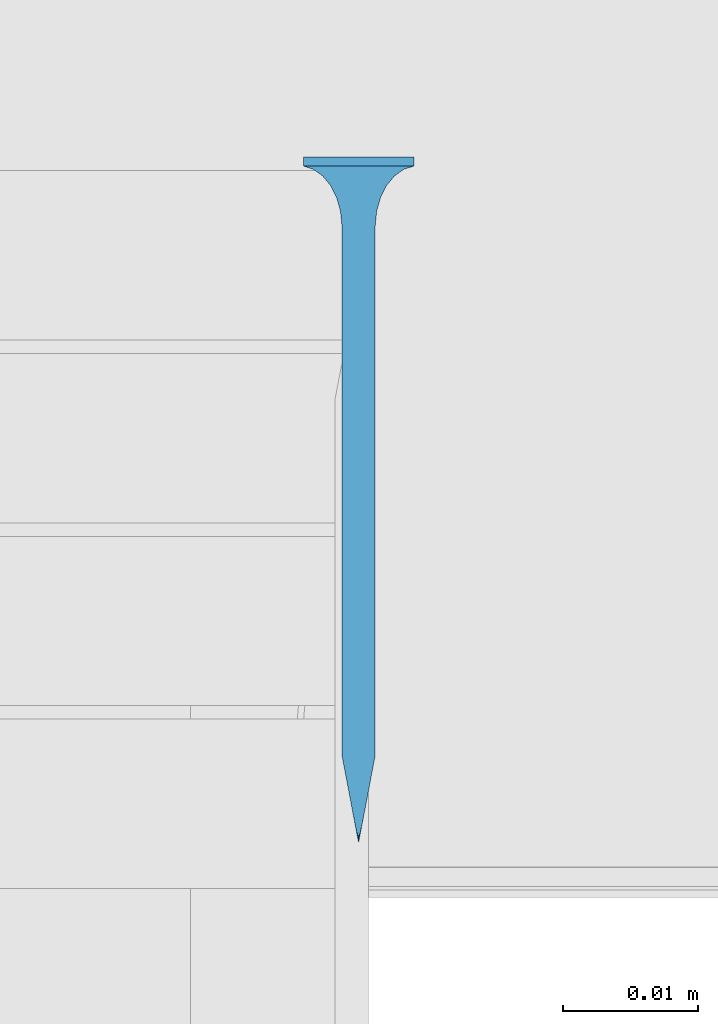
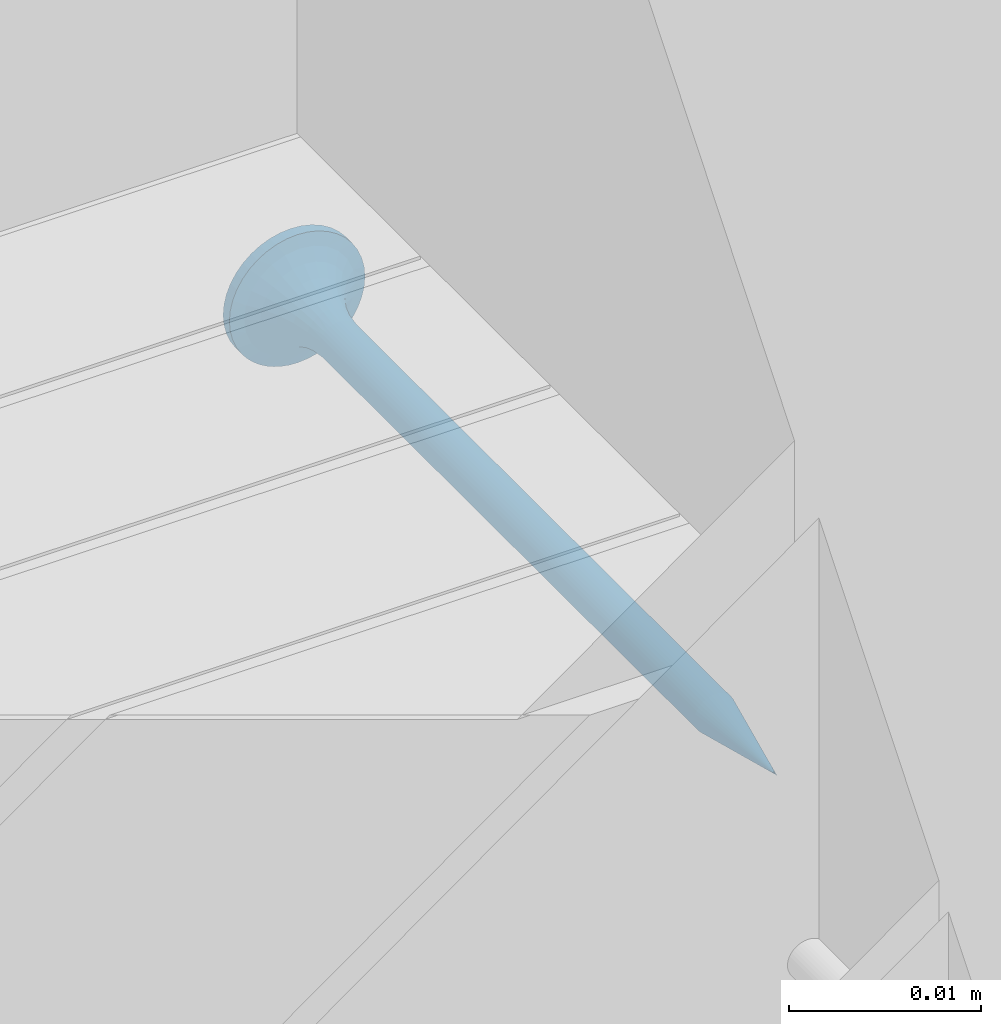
# One storey, part 29 of 32: 1 wall.
"""IFC2X3 building model written with IfcOpenShell, lengths in millimetres."""

from ifc_helpers import new_model, entity, si_unit, converted_unit, direction, frame, origin, origin_with_axes, place, context, project, spatial, faceted_brep, element, save


model = new_model("IFC2X3")

# Units and contexts
model_context = context("Model", 3, precision=1e-05, world=origin(), true_north=direction((0.0, 1.0, 0.0)))
ifc_project = project(units=[si_unit("LENGTHUNIT", "METRE", prefix="MILLI"), si_unit("AREAUNIT", "SQUARE_METRE"), si_unit("VOLUMEUNIT", "CUBIC_METRE"), converted_unit("PLANEANGLEUNIT", "DEGREE", entity("IfcPlaneAngleMeasure", 0.01745), si_unit("PLANEANGLEUNIT", "RADIAN"), dimensions=[0, 0, 0, 0, 0, 0, 0]), si_unit("SOLIDANGLEUNIT", "STERADIAN"), si_unit("MASSUNIT", "GRAM"), si_unit("TIMEUNIT", "SECOND"), si_unit("THERMODYNAMICTEMPERATUREUNIT", "DEGREE_CELSIUS"), si_unit("LUMINOUSINTENSITYUNIT", "LUMEN")], contexts=[model_context])

# Site, building, storey
site_placement = place(None, origin_with_axes())
site = spatial("IfcSite", under=ifc_project, at=site_placement, Name="Default Site", CompositionType="ELEMENT")
building_placement = place(site_placement, origin_with_axes())
building = spatial("IfcBuilding", under=site, at=building_placement, Name="Default Building", CompositionType="ELEMENT")
storey_placement = place(building_placement, origin_with_axes())
storey = spatial("IfcBuildingStorey", under=building, at=storey_placement, Name="Default Building Storey", CompositionType="ELEMENT", Elevation=0.0)

# Wall
wall_placement = place(storey_placement, frame((3324.58325027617, -2831.468421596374, -173.902931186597), z_axis=(0.0, 0.0, 1.0), x_axis=(1.0, 4.718447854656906e-16, 0.0)))
element("IfcWall", 1, at=wall_placement, inside=storey, Name="Wkręt RIGIPS TN 45", context=model_context, shape_type="Brep", body=[
    faceted_brep([(-141.5377463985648, 4832.59805152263, 555.8000000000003), (-141.5377463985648, 4833.259713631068, 555.8000000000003), (-141.4875329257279, 4833.259713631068, 555.1619773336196), (-141.4875329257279, 4832.59805152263, 555.1619773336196), (-141.3381289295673, 4833.259713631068, 554.5396649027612), (-141.3381289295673, 4832.59805152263, 554.5396649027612), (-141.0932132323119, 4833.259713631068, 553.9483861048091), (-141.0932132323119, 4832.59805152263, 553.9483861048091), (-140.7588164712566, 4833.259713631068, 553.4027001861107), (-140.7588164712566, 4832.59805152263, 553.4027001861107), (-140.3431726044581, 4833.259713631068, 552.9160437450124), (-140.4541727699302, 4832.59805152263, 553.0314907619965), (-140.1080097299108, 4832.59805152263, 552.6986614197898), (-139.8565161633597, 4833.259713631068, 552.5003998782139), (-139.7251262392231, 4832.59805152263, 552.4088262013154), (-139.3108302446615, 4833.259713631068, 552.1660031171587), (-139.3108302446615, 4832.59805152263, 552.1660031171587), (-138.870865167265, 4832.59805152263, 551.9735584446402), (-138.7195514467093, 4833.259713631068, 551.9210874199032), (-138.4113302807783, 4832.59805152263, 551.8341600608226), (-137.9385961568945, 4832.59805152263, 551.7497404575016), (-138.0972390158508, 4833.259713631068, 551.7716834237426), (-137.4592163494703, 4833.259713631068, 551.7214699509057), (-137.4592163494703, 4832.59805152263, 551.7214699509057), (-136.8211936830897, 4833.259713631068, 551.7716834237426), (-136.8211936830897, 4832.59805152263, 551.7716834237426), (-136.1988812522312, 4833.259713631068, 551.9210874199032), (-136.1988812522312, 4832.59805152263, 551.9210874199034), (-135.6076024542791, 4833.259713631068, 552.1660031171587), (-135.6076024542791, 4832.59805152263, 552.1660031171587), (-135.0619165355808, 4833.259713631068, 552.5003998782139), (-135.0619165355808, 4832.59805152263, 552.5003998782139), (-134.5752600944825, 4833.259713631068, 552.9160437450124), (-134.5752600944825, 4832.59805152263, 552.9160437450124), (-134.159616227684, 4833.259713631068, 553.4027001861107), (-134.159616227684, 4832.59805152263, 553.4027001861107), (-133.8252194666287, 4833.259713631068, 553.9483861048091), (-133.8252194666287, 4832.59805152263, 553.9483861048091), (-133.5803037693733, 4833.259713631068, 554.5396649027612), (-133.5803037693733, 4832.59805152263, 554.5396649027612), (-133.4308997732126, 4833.259713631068, 556.4380226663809), (-133.4308997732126, 4832.59805152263, 556.4380226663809), (-133.3806863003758, 4832.59805152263, 555.8000000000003), (-133.3806863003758, 4833.259713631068, 555.8000000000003), (-133.4308997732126, 4832.59805152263, 555.1619773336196), (-133.4308997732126, 4833.259713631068, 555.1619773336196), (-133.5803037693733, 4833.259713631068, 557.0603350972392), (-133.5803037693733, 4832.59805152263, 557.0603350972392), (-133.8252194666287, 4833.259713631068, 557.6516138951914), (-133.8252194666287, 4832.59805152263, 557.6516138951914), (-134.159616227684, 4833.259713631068, 558.1972998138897), (-134.159616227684, 4832.59805152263, 558.1972998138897), (-134.5752600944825, 4833.259713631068, 558.683956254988), (-134.5752600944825, 4832.59805152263, 558.683956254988), (-135.0619165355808, 4833.259713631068, 559.0996001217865), (-135.0619165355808, 4832.59805152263, 559.0996001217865), (-135.6076024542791, 4833.259713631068, 559.4339968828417), (-135.6076024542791, 4832.59805152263, 559.4339968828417), (-136.1988812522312, 4833.259713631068, 559.6789125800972), (-136.1988812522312, 4832.59805152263, 559.6789125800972), (-136.8211936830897, 4833.259713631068, 559.8283165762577), (-136.8211936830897, 4832.59805152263, 559.8283165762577), (-137.4592163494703, 4833.259713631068, 559.8785300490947), (-137.4592163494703, 4832.59805152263, 559.8785300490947), (-138.0972390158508, 4833.259713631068, 559.8283165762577), (-138.0972390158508, 4832.59805152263, 559.8283165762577), (-138.7195514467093, 4833.259713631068, 559.6789125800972), (-138.7195514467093, 4832.59805152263, 559.6789125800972), (-139.3108302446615, 4833.259713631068, 559.4339968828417), (-139.3108302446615, 4832.59805152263, 559.4339968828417), (-139.8565161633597, 4833.259713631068, 559.0996001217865), (-139.8565161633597, 4832.59805152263, 559.0996001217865), (-140.3431726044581, 4833.259713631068, 558.683956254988), (-140.3431726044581, 4832.59805152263, 558.683956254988), (-140.7588164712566, 4833.259713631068, 558.1972998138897), (-140.7588164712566, 4832.59805152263, 558.1972998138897), (-141.0932132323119, 4833.259713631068, 557.6516138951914), (-141.0932132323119, 4832.59805152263, 557.6516138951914), (-141.3381289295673, 4833.259713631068, 557.0603350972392), (-141.3381289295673, 4832.59805152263, 557.0603350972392), (-141.4875329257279, 4833.259713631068, 556.4380226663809), (-141.4875329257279, 4832.59805152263, 556.4380226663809), (-137.8060615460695, 4829.281368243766, 554.5055560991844), (-137.4592163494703, 4828.206294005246, 554.5693795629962), (-137.6517277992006, 4828.206294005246, 554.5845305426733), (-137.4592163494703, 4829.281368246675, 554.4598930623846), (-137.8394989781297, 4828.206294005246, 554.6296104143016), (-138.1292698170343, 4829.281368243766, 554.639433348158), (-138.0179063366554, 4828.206294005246, 554.7035091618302), (-138.182556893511, 4828.206294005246, 554.804407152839), (-138.4068150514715, 4829.281368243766, 554.8524012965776), (-138.3293964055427, 4828.206294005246, 554.929819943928), (-138.6197830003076, 4829.281368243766, 555.1299465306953), (-138.4548091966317, 4828.206294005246, 555.0766594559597), (-138.5557071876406, 4828.206294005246, 555.2413100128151), (-138.7536602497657, 4829.281368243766, 555.4531548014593), (-138.629605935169, 4828.206294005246, 555.4197173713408), (-138.6746858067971, 4828.206294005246, 555.60748855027), (-138.7993232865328, 4829.281368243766, 555.7999999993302), (-138.6898367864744, 4828.206294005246, 555.8000000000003), (-138.7536602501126, 4829.281368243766, 556.1468451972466), (-138.6746858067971, 4828.206294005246, 555.9925114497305), (-138.629605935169, 4828.206294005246, 556.1802826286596), (-138.6197830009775, 4829.281368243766, 556.4700534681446), (-138.5557071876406, 4828.206294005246, 556.3586899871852), (-138.4548091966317, 4828.206294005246, 556.5233405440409), (-138.4068150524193, 4829.281368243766, 556.7475987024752), (-138.3293964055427, 4828.206294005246, 556.6701800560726), (-138.1292698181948, 4829.281368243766, 556.9605666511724), (-138.182556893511, 4828.206294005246, 556.7955928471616), (-138.0179063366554, 4828.206294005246, 556.8964908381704), (-137.8060615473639, 4829.281368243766, 557.0944439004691), (-137.8394989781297, 4828.206294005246, 556.9703895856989), (-137.6517277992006, 4828.206294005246, 557.0154694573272), (-137.4592163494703, 4829.281368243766, 557.1401069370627), (-137.4592163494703, 4828.206294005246, 557.0306204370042), (-137.1123711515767, 4829.281368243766, 557.0944439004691), (-137.2667048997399, 4828.206294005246, 557.0154694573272), (-137.0789337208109, 4828.206294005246, 556.9703895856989), (-136.7891628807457, 4829.281368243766, 556.9605666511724), (-136.9005263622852, 4828.206294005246, 556.8964908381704), (-136.7358758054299, 4828.206294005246, 556.7955928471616), (-136.5116176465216, 4829.281368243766, 556.7475987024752), (-136.5890362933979, 4828.206294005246, 556.6701800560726), (-136.2986496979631, 4829.281368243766, 556.4700534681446), (-136.4636235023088, 4828.206294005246, 556.5233405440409), (-136.3627255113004, 4828.206294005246, 556.3586899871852), (-136.1647724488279, 4829.281368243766, 556.1468451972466), (-136.2888267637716, 4828.206294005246, 556.1802826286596), (-136.2437468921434, 4828.206294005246, 555.9925114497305), (-136.1191094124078, 4829.281368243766, 555.7999999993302), (-136.2285959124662, 4828.206294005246, 555.8000000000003), (-136.1647724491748, 4829.281368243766, 555.4531548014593), (-136.2437468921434, 4828.206294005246, 555.60748855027), (-136.2888267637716, 4828.206294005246, 555.4197173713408), (-136.298649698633, 4829.281368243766, 555.1299465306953), (-136.3627255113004, 4828.206294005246, 555.2413100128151), (-136.4636235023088, 4828.206294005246, 555.0766594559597), (-136.5116176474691, 4829.281368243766, 554.8524012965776), (-136.5890362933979, 4828.206294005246, 554.929819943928), (-136.7891628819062, 4829.281368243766, 554.639433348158), (-136.7358758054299, 4828.206294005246, 554.804407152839), (-136.9005263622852, 4828.206294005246, 554.7035091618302), (-137.112371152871, 4829.281368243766, 554.5055560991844), (-137.0789337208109, 4828.206294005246, 554.6296104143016), (-137.2667048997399, 4828.206294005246, 554.5845305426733), (-137.4592163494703, 4830.288222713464, 554.1737111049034), (-137.8801308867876, 4830.288222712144, 554.229125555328), (-138.2723607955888, 4830.288222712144, 554.3915925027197), (-138.6091762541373, 4830.288222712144, 554.6500400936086), (-138.8676238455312, 4830.288222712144, 554.9868555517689), (-139.0300907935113, 4830.288222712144, 555.3790854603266), (-139.085505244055, 4830.288222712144, 555.7999999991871), (-139.0300907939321, 4830.288222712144, 556.2209145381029), (-138.8676238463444, 4830.288222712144, 556.6131444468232), (-138.6091762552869, 4830.288222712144, 556.9499599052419), (-138.2723607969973, 4830.288222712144, 557.2084074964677), (-137.8801308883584, 4830.288222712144, 557.3708744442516), (-137.4592163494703, 4830.288222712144, 557.426288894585), (-137.0383018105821, 4830.288222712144, 557.3708744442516), (-136.6460719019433, 4830.288222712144, 557.2084074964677), (-136.3092564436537, 4830.288222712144, 556.9499599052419), (-136.0508088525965, 4830.288222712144, 556.6131444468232), (-135.8883419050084, 4830.288222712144, 556.2209145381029), (-135.8329274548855, 4830.288222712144, 555.7999999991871), (-135.8883419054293, 4830.288222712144, 555.3790854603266), (-136.0508088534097, 4830.288222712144, 554.9868555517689), (-136.3092564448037, 4830.288222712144, 554.6500400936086), (-136.6460719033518, 4830.288222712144, 554.3915925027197), (-137.038301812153, 4830.288222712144, 554.229125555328), (-137.4592163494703, 4831.168773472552, 553.7273431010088), (-137.9956594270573, 4831.168773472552, 553.7979671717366), (-138.4955447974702, 4831.168773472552, 554.005026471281), (-138.9248060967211, 4831.168773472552, 554.3344102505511), (-139.2541898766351, 4831.168773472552, 554.7636715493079), (-139.4612491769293, 4831.168773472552, 555.2635569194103), (-139.5318732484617, 4831.168773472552, 555.7999999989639), (-139.4612491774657, 4831.168773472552, 556.3364430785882), (-139.2541898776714, 4831.168773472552, 556.8363284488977), (-138.9248060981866, 4831.168773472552, 557.2655897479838), (-138.4955447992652, 4831.168773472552, 557.594973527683), (-137.9956594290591, 4831.168773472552, 557.8020328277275), (-137.4592163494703, 4831.168773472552, 557.8726568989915), (-136.9227732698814, 4831.168773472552, 557.8020328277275), (-136.4228878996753, 4831.168773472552, 557.594973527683), (-135.993626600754, 4831.168773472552, 557.2655897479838), (-135.6642428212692, 4831.168773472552, 556.8363284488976), (-135.4571835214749, 4831.168773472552, 556.3364430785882), (-135.3865594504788, 4831.168773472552, 555.7999999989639), (-135.4571835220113, 4831.168773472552, 555.2635569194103), (-135.6642428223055, 4831.168773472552, 554.7636715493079), (-135.9936266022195, 4831.168773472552, 554.3344102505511), (-136.4228879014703, 4831.168773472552, 554.005026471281), (-136.9227732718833, 4831.168773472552, 553.7979671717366), (-137.4592163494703, 4831.872222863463, 553.1465393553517), (-138.1459824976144, 4831.872222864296, 553.2369538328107), (-138.7859466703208, 4831.872222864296, 553.5020356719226), (-139.3354963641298, 4831.872222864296, 553.9237199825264), (-139.7571806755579, 4831.872222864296, 554.4732696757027), (-140.0222625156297, 4831.872222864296, 555.1132338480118), (-140.1126769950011, 4831.872222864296, 555.7999999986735), (-140.0222625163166, 4831.872222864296, 556.4867661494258), (-139.7571806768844, 4831.872222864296, 557.1267303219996), (-139.335496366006, 4831.872222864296, 557.6762800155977), (-138.7859466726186, 4831.872222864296, 558.0979643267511), (-138.1459825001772, 4831.872222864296, 558.3630461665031), (-137.4592163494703, 4831.872222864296, 558.4534606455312), (-136.7724501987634, 4831.872222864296, 558.3630461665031), (-136.1324860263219, 4831.872222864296, 558.0979643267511), (-135.5829363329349, 4831.872222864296, 557.6762800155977), (-135.1612520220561, 4831.872222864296, 557.1267303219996), (-134.8961701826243, 4831.872222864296, 556.4867661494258), (-134.8057557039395, 4831.872222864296, 555.7999999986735), (-134.8961701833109, 4831.872222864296, 555.1132338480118), (-135.1612520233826, 4831.872222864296, 554.4732696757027), (-135.5829363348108, 4831.872222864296, 553.9237199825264), (-136.1324860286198, 4831.872222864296, 553.5020356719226), (-136.7724502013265, 4831.872222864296, 553.2369538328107), (-137.4592163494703, 4832.357989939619, 552.4648055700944), (-138.3224281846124, 4832.357989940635, 552.578449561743), (-139.1268135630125, 4832.357989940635, 552.9116368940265), (-139.8175549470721, 4832.357989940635, 553.4416613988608), (-140.3475794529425, 4832.357989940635, 554.1324027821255), (-140.6807667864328, 4832.357989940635, 554.9367881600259), (-140.7944107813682, 4832.357989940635, 555.7999999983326), (-140.6807667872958, 4832.357989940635, 556.6632118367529), (-140.3475794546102, 4832.357989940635, 557.4675972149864), (-139.8175549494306, 4832.357989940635, 558.1583385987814), (-139.1268135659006, 4832.357989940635, 558.6883631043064), (-138.322428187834, 4832.357989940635, 559.0215504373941), (-137.4592163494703, 4832.357989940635, 559.1351944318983), (-136.5960045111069, 4832.357989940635, 559.0215504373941), (-135.79161913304, 4832.357989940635, 558.6883631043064), (-135.10087774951, 4832.357989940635, 558.1583385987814), (-134.5708532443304, 4832.357989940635, 557.4675972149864), (-134.2376659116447, 4832.357989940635, 556.6632118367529), (-134.1240219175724, 4832.357989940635, 555.7999999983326), (-134.2376659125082, 4832.357989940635, 554.9367881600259), (-134.570853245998, 4832.357989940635, 554.1324027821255), (-135.1008777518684, 4832.357989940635, 553.4416613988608), (-135.7916191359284, 4832.357989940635, 552.9116368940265), (-136.5960045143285, 4832.357989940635, 552.578449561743), (-138.6898367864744, 4789.093757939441, 555.8000000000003), (-138.6746858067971, 4789.093757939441, 555.60748855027), (-138.629605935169, 4789.093757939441, 555.4197173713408), (-138.5557071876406, 4789.093757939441, 555.2413100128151), (-138.4548091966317, 4789.093757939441, 555.0766594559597), (-138.3293964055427, 4789.093757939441, 554.929819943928), (-138.182556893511, 4789.093757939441, 554.804407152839), (-138.0179063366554, 4789.093757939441, 554.7035091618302), (-137.8394989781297, 4789.093757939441, 554.6296104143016), (-137.6517277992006, 4789.093757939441, 554.5845305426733), (-137.4592163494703, 4789.093757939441, 554.5693795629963), (-137.2667048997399, 4789.093757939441, 554.5845305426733), (-137.0789337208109, 4789.093757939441, 554.6296104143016), (-136.9005263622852, 4789.093757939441, 554.7035091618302), (-136.7358758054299, 4789.093757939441, 554.804407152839), (-136.5890362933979, 4789.093757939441, 554.929819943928), (-136.4636235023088, 4789.093757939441, 555.0766594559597), (-136.3627255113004, 4789.093757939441, 555.2413100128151), (-136.2888267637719, 4789.093757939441, 555.4197173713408), (-136.2437468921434, 4789.093757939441, 555.9925114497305), (-136.2285959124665, 4789.093757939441, 555.8000000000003), (-136.2437468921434, 4789.093757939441, 555.60748855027), (-136.2888267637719, 4789.093757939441, 556.1802826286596), (-136.3627255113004, 4789.093757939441, 556.3586899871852), (-136.4636235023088, 4789.093757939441, 556.5233405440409), (-136.5890362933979, 4789.093757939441, 556.6701800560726), (-136.7358758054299, 4789.093757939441, 556.7955928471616), (-136.9005263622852, 4789.093757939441, 556.8964908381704), (-137.0789337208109, 4789.093757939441, 556.9703895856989), (-137.2667048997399, 4789.093757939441, 557.0154694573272), (-137.4592163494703, 4789.093757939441, 557.0306204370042), (-137.6517277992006, 4789.093757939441, 557.0154694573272), (-137.8394989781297, 4789.093757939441, 556.9703895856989), (-138.0179063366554, 4789.093757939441, 556.8964908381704), (-138.182556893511, 4789.093757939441, 556.7955928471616), (-138.3293964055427, 4789.093757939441, 556.6701800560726), (-138.4548091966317, 4789.093757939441, 556.5233405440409), (-138.5557071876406, 4789.093757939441, 556.3586899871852), (-138.629605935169, 4789.093757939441, 556.1802826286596), (-138.6746858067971, 4789.093757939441, 555.9925114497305), (-137.4592163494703, 4782.627063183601, 555.8000000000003), (-139.9592163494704, 4833.259713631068, 556.3000000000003), (-137.9592163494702, 4833.259713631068, 556.3000000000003), (-139.9592163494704, 4833.259713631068, 555.3000000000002), (-137.9592163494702, 4833.259713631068, 555.3000000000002), (-137.9592163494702, 4833.259713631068, 553.3000000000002), (-136.9592163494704, 4833.259713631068, 553.3000000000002), (-136.9592163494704, 4833.259713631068, 555.3000000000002), (-134.9592163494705, 4833.259713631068, 555.3000000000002), (-134.9592163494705, 4833.259713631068, 556.3000000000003), (-136.9592163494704, 4833.259713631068, 556.3000000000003), (-136.9592163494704, 4833.259713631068, 558.3000000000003), (-137.9592163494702, 4833.259713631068, 558.3000000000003), (-136.9592163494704, 4831.988379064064, 556.3000000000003), (-134.9592163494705, 4831.988379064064, 556.3000000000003), (-134.9592163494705, 4831.988379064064, 555.3000000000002), (-136.9592163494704, 4831.988379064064, 555.3000000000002), (-136.9592163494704, 4831.988379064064, 553.3000000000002), (-137.9592163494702, 4831.988379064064, 553.3000000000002), (-137.9592163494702, 4831.988379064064, 555.3000000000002), (-139.9592163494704, 4831.988379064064, 555.3000000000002), (-139.9592163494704, 4831.988379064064, 556.3000000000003), (-137.9592163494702, 4831.988379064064, 556.3000000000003), (-137.9592163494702, 4831.988379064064, 558.3000000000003), (-136.9592163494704, 4831.988379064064, 558.3000000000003)], [[[0, 1, 2, 3]], [[4, 5, 3, 2]], [[6, 7, 5, 4]], [[7, 6, 8, 9]], [[8, 10, 9]], [[10, 11, 9]], [[12, 11, 13]], [[11, 10, 13]], [[13, 14, 12]], [[13, 15, 14]], [[15, 16, 14]], [[17, 16, 18]], [[16, 15, 18]], [[18, 19, 17]], [[20, 19, 21]], [[19, 18, 21]], [[21, 22, 20]], [[22, 23, 20]], [[23, 22, 24, 25]], [[26, 27, 25, 24]], [[28, 29, 27, 26]], [[29, 28, 30, 31]], [[32, 33, 31, 30]], [[33, 32, 34, 35]], [[36, 37, 35, 34]], [[38, 39, 37, 36]], [[40, 41, 42, 43]], [[43, 42, 44, 45]], [[39, 38, 45, 44]], [[46, 47, 41, 40]], [[48, 49, 47, 46]], [[49, 48, 50, 51]], [[52, 53, 51, 50]], [[53, 52, 54, 55]], [[56, 57, 55, 54]], [[58, 59, 57, 56]], [[59, 58, 60, 61]], [[62, 63, 61, 60]], [[63, 62, 64, 65]], [[66, 67, 65, 64]], [[68, 69, 67, 66]], [[69, 68, 70, 71]], [[72, 73, 71, 70]], [[73, 72, 74, 75]], [[76, 77, 75, 74]], [[78, 79, 77, 76]], [[79, 78, 80, 81]], [[1, 0, 81, 80]], [[82, 83, 84]], [[82, 85, 83]], [[84, 86, 82]], [[82, 86, 87]], [[88, 87, 86]], [[87, 88, 89]], [[89, 90, 87]], [[89, 91, 90]], [[92, 91, 93]], [[92, 90, 91]], [[93, 94, 92]], [[92, 94, 95]], [[96, 95, 94]], [[95, 96, 97]], [[97, 98, 95]], [[97, 99, 98]], [[100, 99, 101]], [[100, 98, 99]], [[101, 102, 100]], [[100, 102, 103]], [[104, 103, 102]], [[103, 104, 105]], [[105, 106, 103]], [[105, 107, 106]], [[108, 107, 109]], [[108, 106, 107]], [[109, 110, 108]], [[108, 110, 111]], [[112, 111, 110]], [[111, 112, 113]], [[113, 114, 111]], [[113, 115, 114]], [[116, 115, 117]], [[116, 114, 115]], [[117, 118, 116]], [[116, 118, 119]], [[120, 119, 118]], [[119, 120, 121]], [[121, 122, 119]], [[121, 123, 122]], [[124, 123, 125]], [[124, 122, 123]], [[125, 126, 124]], [[124, 126, 127]], [[128, 127, 126]], [[127, 128, 129]], [[129, 130, 127]], [[129, 131, 130]], [[132, 131, 133]], [[132, 130, 131]], [[133, 134, 132]], [[132, 134, 135]], [[136, 135, 134]], [[135, 136, 137]], [[137, 138, 135]], [[137, 139, 138]], [[140, 139, 141]], [[140, 138, 139]], [[141, 142, 140]], [[140, 142, 143]], [[144, 143, 142]], [[143, 144, 145]], [[145, 85, 143]], [[145, 83, 85]], [[146, 85, 147]], [[82, 147, 85]], [[87, 148, 147, 82]], [[90, 149, 148, 87]], [[92, 150, 149, 90]], [[95, 151, 150, 92]], [[98, 152, 151, 95]], [[100, 153, 152, 98]], [[103, 154, 153, 100]], [[106, 155, 154, 103]], [[108, 156, 155, 106]], [[111, 157, 156, 108]], [[114, 158, 157, 111]], [[116, 159, 158, 114]], [[119, 160, 159, 116]], [[122, 161, 160, 119]], [[124, 162, 161, 122]], [[127, 163, 162, 124]], [[130, 164, 163, 127]], [[132, 165, 164, 130]], [[135, 166, 165, 132]], [[138, 167, 166, 135]], [[140, 168, 167, 138]], [[143, 169, 168, 140]], [[143, 85, 169]], [[146, 169, 85]], [[170, 146, 171]], [[147, 171, 146]], [[148, 172, 171, 147]], [[149, 173, 172, 148]], [[150, 174, 173, 149]], [[151, 175, 174, 150]], [[152, 176, 175, 151]], [[153, 177, 176, 152]], [[154, 178, 177, 153]], [[155, 179, 178, 154]], [[156, 180, 179, 155]], [[157, 181, 180, 156]], [[158, 182, 181, 157]], [[159, 183, 182, 158]], [[160, 184, 183, 159]], [[161, 185, 184, 160]], [[162, 186, 185, 161]], [[163, 187, 186, 162]], [[164, 188, 187, 163]], [[165, 189, 188, 164]], [[166, 190, 189, 165]], [[167, 191, 190, 166]], [[168, 192, 191, 167]], [[169, 193, 192, 168]], [[169, 146, 193]], [[170, 193, 146]], [[194, 170, 195]], [[171, 195, 170]], [[172, 196, 195, 171]], [[173, 197, 196, 172]], [[174, 198, 197, 173]], [[175, 199, 198, 174]], [[176, 200, 199, 175]], [[177, 201, 200, 176]], [[178, 202, 201, 177]], [[179, 203, 202, 178]], [[180, 204, 203, 179]], [[181, 205, 204, 180]], [[182, 206, 205, 181]], [[183, 207, 206, 182]], [[184, 208, 207, 183]], [[185, 209, 208, 184]], [[186, 210, 209, 185]], [[187, 211, 210, 186]], [[188, 212, 211, 187]], [[189, 213, 212, 188]], [[190, 214, 213, 189]], [[191, 215, 214, 190]], [[192, 216, 215, 191]], [[193, 217, 216, 192]], [[193, 170, 217]], [[194, 217, 170]], [[218, 19, 20]], [[218, 219, 19]], [[20, 23, 218]], [[218, 194, 219]], [[195, 219, 194]], [[219, 16, 17]], [[219, 220, 16]], [[17, 19, 219]], [[196, 220, 219, 195]], [[221, 11, 12]], [[220, 12, 14]], [[220, 221, 12]], [[14, 16, 220]], [[197, 221, 220, 196]], [[222, 7, 9]], [[9, 221, 222]], [[9, 11, 221]], [[198, 222, 221, 197]], [[5, 7, 223]], [[222, 223, 7]], [[199, 223, 222, 198]], [[223, 0, 3]], [[223, 224, 0]], [[3, 5, 223]], [[200, 224, 223, 199]], [[225, 79, 81]], [[81, 224, 225]], [[81, 0, 224]], [[201, 225, 224, 200]], [[225, 226, 77, 79]], [[202, 226, 225, 201]], [[226, 73, 75]], [[226, 227, 73]], [[75, 77, 226]], [[203, 227, 226, 202]], [[228, 69, 71]], [[71, 227, 228]], [[71, 73, 227]], [[204, 228, 227, 203]], [[228, 229, 67, 69]], [[205, 229, 228, 204]], [[229, 63, 65]], [[229, 230, 63]], [[65, 67, 229]], [[206, 230, 229, 205]], [[231, 59, 61]], [[61, 230, 231]], [[61, 63, 230]], [[207, 231, 230, 206]], [[231, 232, 57, 59]], [[208, 232, 231, 207]], [[232, 53, 55]], [[232, 233, 53]], [[55, 57, 232]], [[209, 233, 232, 208]], [[234, 49, 51]], [[51, 233, 234]], [[51, 53, 233]], [[210, 234, 233, 209]], [[234, 235, 47, 49]], [[211, 235, 234, 210]], [[235, 42, 41]], [[235, 236, 42]], [[41, 47, 235]], [[212, 236, 235, 211]], [[237, 39, 44]], [[44, 236, 237]], [[44, 42, 236]], [[213, 237, 236, 212]], [[37, 39, 238]], [[237, 238, 39]], [[214, 238, 237, 213]], [[238, 33, 35]], [[238, 239, 33]], [[35, 37, 238]], [[215, 239, 238, 214]], [[240, 29, 31]], [[31, 239, 240]], [[31, 33, 239]], [[216, 240, 239, 215]], [[27, 29, 241]], [[240, 241, 29]], [[217, 241, 240, 216]], [[217, 194, 241]], [[218, 241, 194]], [[241, 23, 25]], [[241, 218, 23]], [[25, 27, 241]], [[242, 99, 97, 243]], [[96, 244, 243, 97]], [[94, 245, 244, 96]], [[245, 94, 93, 246]], [[91, 247, 246, 93]], [[247, 91, 89, 248]], [[88, 249, 248, 89]], [[86, 250, 249, 88]], [[250, 86, 84, 251]], [[83, 252, 251, 84]], [[252, 83, 145, 253]], [[144, 254, 253, 145]], [[142, 255, 254, 144]], [[255, 142, 141, 256]], [[139, 257, 256, 141]], [[257, 139, 137, 258]], [[136, 259, 258, 137]], [[134, 260, 259, 136]], [[129, 261, 262, 131]], [[131, 262, 263, 133]], [[260, 134, 133, 263]], [[128, 264, 261, 129]], [[126, 265, 264, 128]], [[265, 126, 125, 266]], [[123, 267, 266, 125]], [[267, 123, 121, 268]], [[120, 269, 268, 121]], [[118, 270, 269, 120]], [[270, 118, 117, 271]], [[115, 272, 271, 117]], [[272, 115, 113, 273]], [[112, 274, 273, 113]], [[110, 275, 274, 112]], [[275, 110, 109, 276]], [[107, 277, 276, 109]], [[277, 107, 105, 278]], [[104, 279, 278, 105]], [[102, 280, 279, 104]], [[280, 102, 101, 281]], [[99, 242, 281, 101]], [[243, 244, 282]], [[282, 242, 243]], [[244, 245, 282]], [[246, 247, 282]], [[282, 245, 246]], [[248, 249, 282]], [[282, 247, 248]], [[249, 250, 282]], [[251, 252, 282]], [[282, 250, 251]], [[253, 254, 282]], [[282, 252, 253]], [[254, 255, 282]], [[256, 257, 282]], [[282, 255, 256]], [[258, 259, 282]], [[282, 257, 258]], [[259, 260, 282]], [[263, 262, 282]], [[282, 260, 263]], [[261, 264, 282]], [[282, 262, 261]], [[264, 265, 282]], [[266, 267, 282]], [[282, 265, 266]], [[268, 269, 282]], [[282, 267, 268]], [[269, 270, 282]], [[271, 272, 282]], [[282, 270, 271]], [[273, 274, 282]], [[282, 272, 273]], [[274, 275, 282]], [[276, 277, 282]], [[282, 275, 276]], [[278, 279, 282]], [[282, 277, 278]], [[279, 280, 282]], [[281, 242, 282]], [[282, 280, 281]], [[283, 76, 74, 284]], [[283, 285, 286, 287, 288, 289, 290, 291, 292, 293, 294, 284, 74, 72, 70, 68, 66, 64, 62, 60, 58, 56, 54, 52, 50, 48, 46, 40, 43, 45, 38, 36, 34, 32, 30, 28, 26, 24, 22, 21, 18, 15, 13, 10, 8, 6, 4, 2, 1, 80, 78, 76]], [[295, 296, 297, 298, 299, 300, 301, 302, 303, 304, 305, 306]], [[297, 290, 289, 298]], [[296, 291, 290, 297]], [[295, 292, 291, 296]], [[306, 293, 292, 295]], [[305, 294, 293, 306]], [[304, 284, 294, 305]], [[303, 283, 284, 304]], [[302, 285, 283, 303]], [[301, 286, 285, 302]], [[300, 287, 286, 301]], [[299, 288, 287, 300]], [[298, 289, 288, 299]]]),
])

save(model, "model.ifc")
